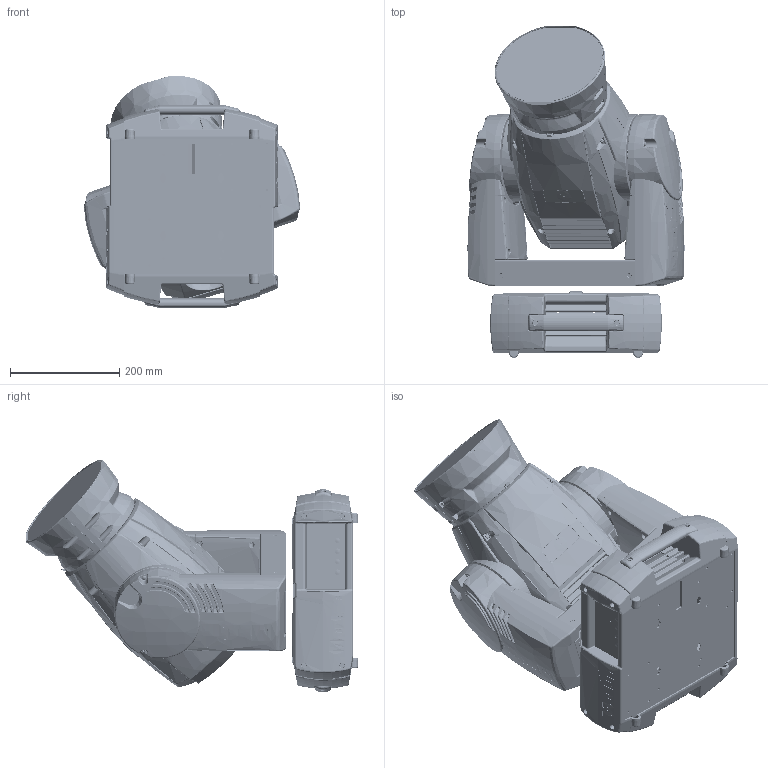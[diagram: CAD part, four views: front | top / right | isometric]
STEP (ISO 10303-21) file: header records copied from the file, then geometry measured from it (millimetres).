
FILE_DESCRIPTION (( 'STEP AP203' ), '1' );
FILE_NAME ('Mac 250 Beam.STEP', '2010-11-12T16:40:38', ( 'IT' ), ( '' ), 'SwSTEP 2.0', 'SolidWorks 2010', '' );
FILE_SCHEMA (( 'CONFIG_CONTROL_DESIGN' ));
Products named in the file (1): Mac 250 Beam
Bounding box: 398.11 x 608.28 x 425.94 mm (x, y, z)
Surface area: 2852730.9 mm2 (no closed solid volume)
Topology: 0 solids, 134 shells, 14220 faces, 37539 edges, 23501 vertices
Faces by surface type: plane 6156, cylinder 3172, bspline 2891, cone 1041, torus 690, sphere 270
Entity records: 565246 total; most frequent: CARTESIAN_POINT 243358, ORIENTED_EDGE 74682, DIRECTION 57606, EDGE_CURVE 37345, VERTEX_POINT 23501, AXIS2_PLACEMENT_3D 20649, LINE 16308, VECTOR 16308
